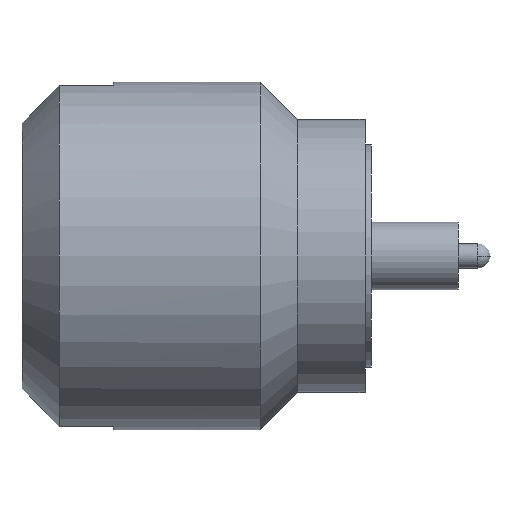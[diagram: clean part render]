
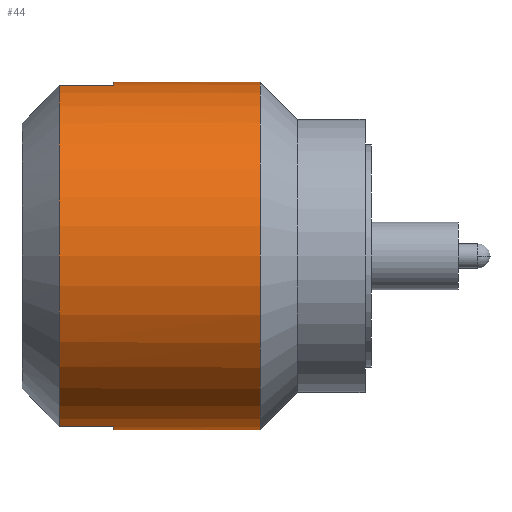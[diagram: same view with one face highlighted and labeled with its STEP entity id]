
A CAD part, front view. The second image highlights one B-rep face of the part: STEP entity #44.
In plain terms, the highlighted cylindrical face has radius 2.083 mm (diameter 4.166 mm), a partial arc.
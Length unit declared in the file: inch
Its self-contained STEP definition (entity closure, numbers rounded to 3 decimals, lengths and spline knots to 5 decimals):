
#15 = CARTESIAN_POINT ( 'NONE',  ( 0., 0., -0.082 ) ) ;
#28 = LINE ( 'NONE', #167, #412 ) ;
#44 = ADVANCED_FACE ( 'NONE', ( #1651 ), #1881, .T. ) ;
#120 = DIRECTION ( 'NONE',  ( -1., 0., 0. ) ) ;
#163 = DIRECTION ( 'NONE',  ( -1., 0., 0. ) ) ;
#167 = CARTESIAN_POINT ( 'NONE',  ( 0.043, -0.015, 0.08062 ) ) ;
#185 = VERTEX_POINT ( 'NONE', #2065 ) ;
#216 = EDGE_CURVE ( 'NONE', #1287, #1676, #1589, .T. ) ;
#221 = AXIS2_PLACEMENT_3D ( 'NONE', #1823, #815, #1993 ) ;
#271 = ORIENTED_EDGE ( 'NONE', *, *, #1684, .T. ) ;
#273 = DIRECTION ( 'NONE',  ( -1., 0., 0. ) ) ;
#318 = VECTOR ( 'NONE', #120, 39.37008 ) ;
#332 = EDGE_LOOP ( 'NONE', ( #738, #2025, #271, #2041, #419, #1876, #1847, #1069 ) ) ;
#363 = DIRECTION ( 'NONE',  ( -1., 0., 0. ) ) ;
#367 = CARTESIAN_POINT ( 'NONE',  ( 0.0175, -0.015, 0.08062 ) ) ;
#412 = VECTOR ( 'NONE', #2170, 39.37008 ) ;
#419 = ORIENTED_EDGE ( 'NONE', *, *, #824, .T. ) ;
#509 = EDGE_CURVE ( 'NONE', #1493, #1287, #1601, .T. ) ;
#511 = CARTESIAN_POINT ( 'NONE',  ( 0.043, -0.015, -0.08062 ) ) ;
#525 = AXIS2_PLACEMENT_3D ( 'NONE', #1266, #273, #1435 ) ;
#540 = AXIS2_PLACEMENT_3D ( 'NONE', #1160, #163, #1322 ) ;
#574 = DIRECTION ( 'NONE',  ( -1., 0., 0. ) ) ;
#583 = VERTEX_POINT ( 'NONE', #1772 ) ;
#684 = VERTEX_POINT ( 'NONE', #935 ) ;
#697 = LINE ( 'NONE', #1518, #1084 ) ;
#719 = EDGE_CURVE ( 'NONE', #1493, #1945, #1820, .T. ) ;
#738 = ORIENTED_EDGE ( 'NONE', *, *, #509, .F. ) ;
#755 = CARTESIAN_POINT ( 'NONE',  ( 0., 0., 0. ) ) ;
#785 = CARTESIAN_POINT ( 'NONE',  ( 0.043, -0.015, -0.08062 ) ) ;
#815 = DIRECTION ( 'NONE',  ( -1., 0., 0. ) ) ;
#824 = EDGE_CURVE ( 'NONE', #185, #1671, #28, .T. ) ;
#935 = CARTESIAN_POINT ( 'NONE',  ( 0.043, 0., 0.082 ) ) ;
#965 = CARTESIAN_POINT ( 'NONE',  ( 0.1125, 0., 0.082 ) ) ;
#1069 = ORIENTED_EDGE ( 'NONE', *, *, #216, .F. ) ;
#1084 = VECTOR ( 'NONE', #1703, 39.37008 ) ;
#1103 = DIRECTION ( 'NONE',  ( -1., 0., 0. ) ) ;
#1142 = EDGE_CURVE ( 'NONE', #583, #1671, #1469, .T. ) ;
#1155 = AXIS2_PLACEMENT_3D ( 'NONE', #1951, #1103, #1922 ) ;
#1159 = VECTOR ( 'NONE', #363, 39.37008 ) ;
#1160 = CARTESIAN_POINT ( 'NONE',  ( 0.1125, 0., 0. ) ) ;
#1163 = CARTESIAN_POINT ( 'NONE',  ( 0.043, 0., -0.082 ) ) ;
#1170 = CIRCLE ( 'NONE', #221, 0.082 ) ;
#1266 = CARTESIAN_POINT ( 'NONE',  ( 0.0175, 0., 0. ) ) ;
#1287 = VERTEX_POINT ( 'NONE', #1163 ) ;
#1322 = DIRECTION ( 'NONE',  ( 0., 0., 1. ) ) ;
#1370 = EDGE_CURVE ( 'NONE', #1676, #583, #1590, .T. ) ;
#1388 = EDGE_CURVE ( 'NONE', #185, #684, #1170, .T. ) ;
#1435 = DIRECTION ( 'NONE',  ( 0., 0., 1. ) ) ;
#1469 = CIRCLE ( 'NONE', #525, 0.082 ) ;
#1493 = VERTEX_POINT ( 'NONE', #1836 ) ;
#1518 = CARTESIAN_POINT ( 'NONE',  ( 0., 0., 0.082 ) ) ;
#1527 = AXIS2_PLACEMENT_3D ( 'NONE', #755, #574, #2090 ) ;
#1589 = CIRCLE ( 'NONE', #1155, 0.082 ) ;
#1590 = LINE ( 'NONE', #785, #318 ) ;
#1601 = LINE ( 'NONE', #15, #1159 ) ;
#1651 = FACE_OUTER_BOUND ( 'NONE', #332, .T. ) ;
#1671 = VERTEX_POINT ( 'NONE', #367 ) ;
#1676 = VERTEX_POINT ( 'NONE', #511 ) ;
#1684 = EDGE_CURVE ( 'NONE', #1945, #684, #697, .T. ) ;
#1703 = DIRECTION ( 'NONE',  ( -1., 0., 0. ) ) ;
#1772 = CARTESIAN_POINT ( 'NONE',  ( 0.0175, -0.015, -0.08062 ) ) ;
#1820 = CIRCLE ( 'NONE', #540, 0.082 ) ;
#1823 = CARTESIAN_POINT ( 'NONE',  ( 0.043, 0., 0. ) ) ;
#1836 = CARTESIAN_POINT ( 'NONE',  ( 0.1125, 0., -0.082 ) ) ;
#1847 = ORIENTED_EDGE ( 'NONE', *, *, #1370, .F. ) ;
#1876 = ORIENTED_EDGE ( 'NONE', *, *, #1142, .F. ) ;
#1881 = CYLINDRICAL_SURFACE ( 'NONE', #1527, 0.082 ) ;
#1922 = DIRECTION ( 'NONE',  ( 0., 0., 1. ) ) ;
#1945 = VERTEX_POINT ( 'NONE', #965 ) ;
#1951 = CARTESIAN_POINT ( 'NONE',  ( 0.043, 0., 0. ) ) ;
#1993 = DIRECTION ( 'NONE',  ( 0., 0., 1. ) ) ;
#2025 = ORIENTED_EDGE ( 'NONE', *, *, #719, .T. ) ;
#2041 = ORIENTED_EDGE ( 'NONE', *, *, #1388, .F. ) ;
#2065 = CARTESIAN_POINT ( 'NONE',  ( 0.043, -0.015, 0.08062 ) ) ;
#2090 = DIRECTION ( 'NONE',  ( 0., 0., 1. ) ) ;
#2170 = DIRECTION ( 'NONE',  ( -1., 0., 0. ) ) ;
